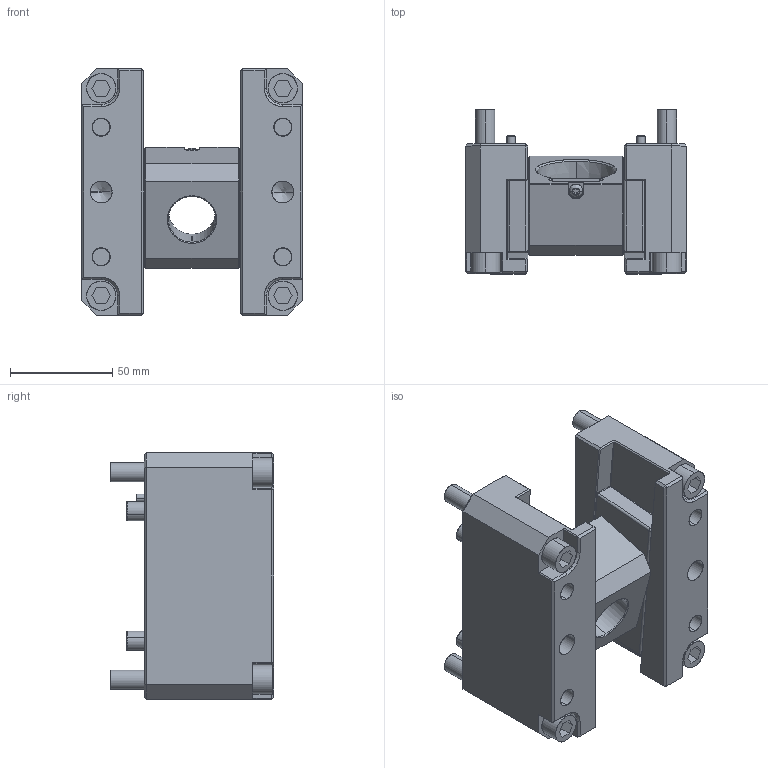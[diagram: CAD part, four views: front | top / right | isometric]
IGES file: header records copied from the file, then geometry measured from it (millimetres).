
Start section: SolidWorks IGES file using analytic representation for surfaces
Global section: file name: C:\Users\365admin\AppData\Local\Temp\InFlowXlateWorking\MLCBA150-5.igs; native system: SolidWorks 2018; preprocessor: SolidWorks 2018; author: 365admin; date: 200824.180326; units: inch
Bounding box: 107.9 x 80.14 x 120.65 mm (x, y, z)
Surface area: 119414.7 mm2 (no closed solid volume)
Topology: 0 solids, 0 shells, 470 faces, 4745 edges, 4723 vertices
Faces by surface type: bspline 258, revolution 212
